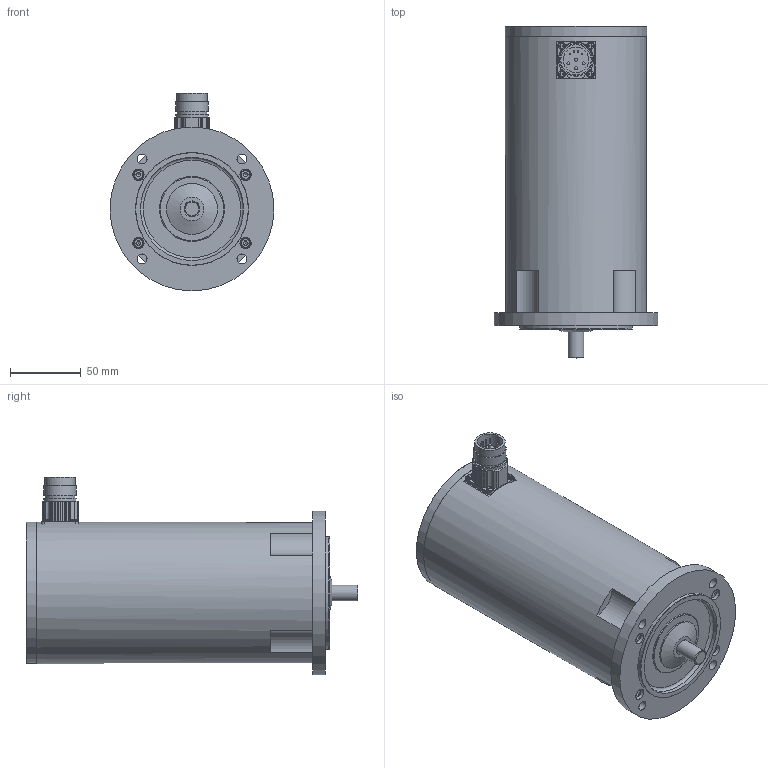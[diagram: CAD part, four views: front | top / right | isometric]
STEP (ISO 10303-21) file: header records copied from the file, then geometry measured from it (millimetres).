
FILE_DESCRIPTION(/* description */ (''),/* implementation_level */ '2;1');
FILE_NAME(/* name */ 'ksa_3x12e',/* time_stamp */ '2007-03-13T09:51:45+01:00',/* author */ (''),/* organization */ (''),/* preprocessor_version */ 'ST-DEVELOPER v8',/* originating_system */ 'UNIGRAPHICS SOLUTIONS - UNIGRAPHICS 18.0',/* authorisation */ '');
FILE_SCHEMA (('AUTOMOTIVE_DESIGN { 1 2 10303 214 0 1 1 1 }'));
Length unit declared in the file: millimetre
Products named in the file (10): din912-m4x12_A; iso1580-m2.5x6_A; 06331101_0; DIN3760_org_A15x30x7_0; 014260_0; 113045_0; Rotor_SA 34.. E_0; 113044_0; Gehaeuse SA 34.. E_0; KSA328_E_0
Assembly tree (19 placements, depth 2):
  KSA328_E_0
    Gehaeuse SA 34.. E_0
    113044_0
    Rotor_SA 34.. E_0
    113045_0
    014260_0
    DIN3760_org_A15x30x7_0
    06331101_0
    iso1580-m2.5x6_A  x4
    din912-m4x12_A  x8
Bounding box: 116 x 235 x 140 mm (x, y, z)
Volume: 710859.9 mm3; surface area: 188007.8 mm2
Topology: 19 solids, 19 shells, 458 faces, 1035 edges, 652 vertices
Faces by surface type: plane 214, cylinder 159, cone 45, torus 32, sphere 8
Full cylindrical faces by diameter (mm): 1 x4, 1.948 x4, 2 x4, 2.5 x4, 2.7 x4, 3 x8, 4 x8, 4.5 x8, 7 x12, 8 x8, 10.52 x1, 10.9 x1, 11 x1, 15 x2, 15.5 x1, 18 x1, 20 x2, 21 x1, 21.5 x1, 22 x1, 23 x2, 25 x1, 27 x1, 30 x3, 32 x1, 35 x1, 36 x1, 45 x1, 73 x1, 74 x1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
Entity records: 7263 total; most frequent: DIRECTION 1358, CARTESIAN_POINT 1193, ORIENTED_EDGE 910, AXIS2_PLACEMENT_3D 620, EDGE_LOOP 464, EDGE_CURVE 455, VERTEX_POINT 360, CIRCLE 332
